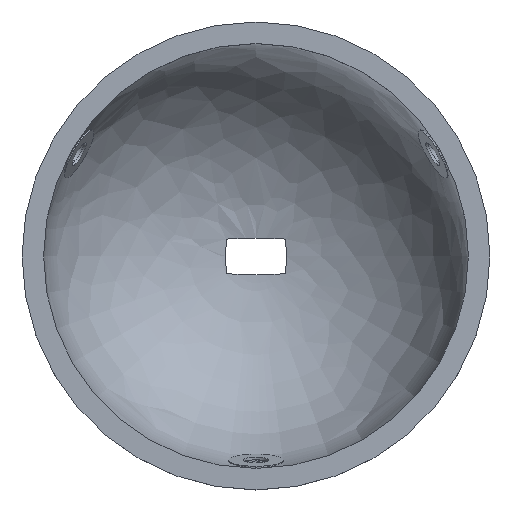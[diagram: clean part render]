
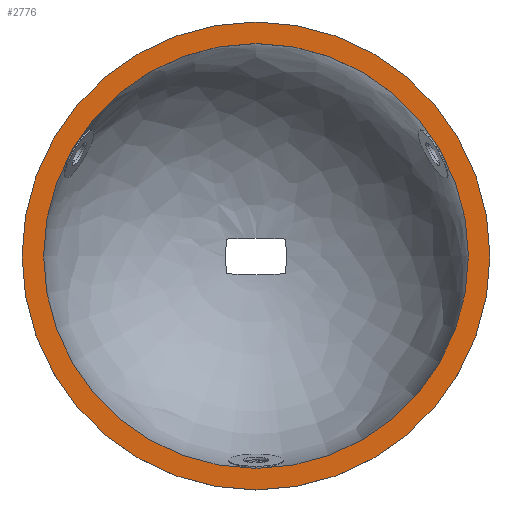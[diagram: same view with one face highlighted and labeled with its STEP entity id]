
A CAD part, top view. The second image highlights one B-rep face of the part: STEP entity #2776.
In plain terms, the highlighted planar face has unit normal (0, 0, 1).
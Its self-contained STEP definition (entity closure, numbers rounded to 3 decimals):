
#580 = CYLINDRICAL_SURFACE('',#581,29.575);
#581 = AXIS2_PLACEMENT_3D('',#582,#583,#584);
#582 = CARTESIAN_POINT('',(0.,0.,-4.));
#583 = DIRECTION('',(0.,0.,1.));
#584 = DIRECTION('',(1.,0.,-0.));
#2091 = VERTEX_POINT('',#2092);
#2092 = CARTESIAN_POINT('',(29.575,0.,0.));
#2113 = EDGE_CURVE('',#2091,#2091,#2114,.T.);
#2114 = SURFACE_CURVE('',#2115,(#2120,#2127),.PCURVE_S1.);
#2115 = CIRCLE('',#2116,29.575);
#2116 = AXIS2_PLACEMENT_3D('',#2117,#2118,#2119);
#2117 = CARTESIAN_POINT('',(0.,0.,0.));
#2118 = DIRECTION('',(0.,0.,1.));
#2119 = DIRECTION('',(1.,0.,-0.));
#2120 = PCURVE('',#580,#2121);
#2121 = DEFINITIONAL_REPRESENTATION('',(#2122),#2126);
#2122 = LINE('',#2123,#2124);
#2123 = CARTESIAN_POINT('',(0.,4.));
#2124 = VECTOR('',#2125,1.);
#2125 = DIRECTION('',(1.,0.));
#2126 = ( GEOMETRIC_REPRESENTATION_CONTEXT(2) 
PARAMETRIC_REPRESENTATION_CONTEXT() REPRESENTATION_CONTEXT('2D SPACE',''
  ) );
#2127 = PCURVE('',#2128,#2133);
#2128 = PLANE('',#2129);
#2129 = AXIS2_PLACEMENT_3D('',#2130,#2131,#2132);
#2130 = CARTESIAN_POINT('',(0.,0.,0.));
#2131 = DIRECTION('',(0.,0.,1.));
#2132 = DIRECTION('',(1.,0.,-0.));
#2133 = DEFINITIONAL_REPRESENTATION('',(#2134),#2138);
#2134 = CIRCLE('',#2135,29.575);
#2135 = AXIS2_PLACEMENT_2D('',#2136,#2137);
#2136 = CARTESIAN_POINT('',(0.,0.));
#2137 = DIRECTION('',(1.,-0.));
#2138 = ( GEOMETRIC_REPRESENTATION_CONTEXT(2) 
PARAMETRIC_REPRESENTATION_CONTEXT() REPRESENTATION_CONTEXT('2D SPACE',''
  ) );
#2776 = ADVANCED_FACE('',(#2777,#2780),#2128,.T.);
#2777 = FACE_BOUND('',#2778,.F.);
#2778 = EDGE_LOOP('',(#2779));
#2779 = ORIENTED_EDGE('',*,*,#2113,.T.);
#2780 = FACE_BOUND('',#2781,.F.);
#2781 = EDGE_LOOP('',(#2782));
#2782 = ORIENTED_EDGE('',*,*,#2783,.F.);
#2783 = EDGE_CURVE('',#2784,#2784,#2786,.T.);
#2784 = VERTEX_POINT('',#2785);
#2785 = CARTESIAN_POINT('',(32.575,0.,0.));
#2786 = SURFACE_CURVE('',#2787,(#2792,#2799),.PCURVE_S1.);
#2787 = CIRCLE('',#2788,32.575);
#2788 = AXIS2_PLACEMENT_3D('',#2789,#2790,#2791);
#2789 = CARTESIAN_POINT('',(0.,0.,0.));
#2790 = DIRECTION('',(0.,0.,1.));
#2791 = DIRECTION('',(1.,0.,-0.));
#2792 = PCURVE('',#2128,#2793);
#2793 = DEFINITIONAL_REPRESENTATION('',(#2794),#2798);
#2794 = CIRCLE('',#2795,32.575);
#2795 = AXIS2_PLACEMENT_2D('',#2796,#2797);
#2796 = CARTESIAN_POINT('',(0.,0.));
#2797 = DIRECTION('',(1.,-0.));
#2798 = ( GEOMETRIC_REPRESENTATION_CONTEXT(2) 
PARAMETRIC_REPRESENTATION_CONTEXT() REPRESENTATION_CONTEXT('2D SPACE',''
  ) );
#2799 = PCURVE('',#2800,#2805);
#2800 = CYLINDRICAL_SURFACE('',#2801,32.575);
#2801 = AXIS2_PLACEMENT_3D('',#2802,#2803,#2804);
#2802 = CARTESIAN_POINT('',(0.,0.,0.));
#2803 = DIRECTION('',(-0.,-0.,-1.));
#2804 = DIRECTION('',(1.,0.,0.));
#2805 = DEFINITIONAL_REPRESENTATION('',(#2806),#2810);
#2806 = LINE('',#2807,#2808);
#2807 = CARTESIAN_POINT('',(-0.,0.));
#2808 = VECTOR('',#2809,1.);
#2809 = DIRECTION('',(-1.,0.));
#2810 = ( GEOMETRIC_REPRESENTATION_CONTEXT(2) 
PARAMETRIC_REPRESENTATION_CONTEXT() REPRESENTATION_CONTEXT('2D SPACE',''
  ) );
